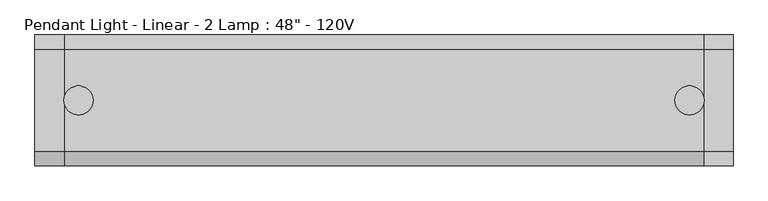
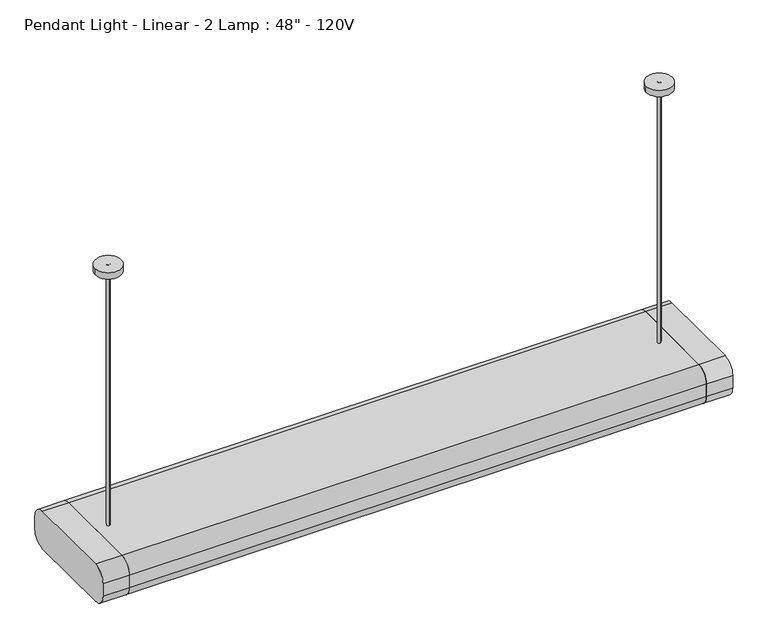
"""IFC4 building model written with IfcOpenShell, lengths in millimetres: light fixture geometry."""

import ifcopenshell
import ifcopenshell.guid

model = None  # the IFC model being written
_history = None  # IfcOwnerHistory: only IFC2X3 demands one
_inside = {}  # id of a spatial element -> (the spatial element, [elements in it])
_under = {}  # id of a project, library or spatial element -> (it, [spatial elements below it])
_declared = {}  # id of a project -> (the project, [libraries it declares])
_typed = {}  # id of a type object -> (the type object, [elements of that type])
_made_of = {}  # id of a material, layer set ... -> (it, [elements and type objects made of it])


def new_model(schema):
    """Start an empty IFC model of exactly this schema.

    Asked for "IFC4X3", IfcOpenShell would pick the latest addendum, in which some entities
    have other attributes; the version numbers below select the first issue.
    IFC2X3 requires an IfcOwnerHistory on every rooted entity: one is made here for all.
    """
    global model, _history
    if schema == "IFC4X3":
        model = ifcopenshell.file(schema_version=(4, 3, 0, 0))
    else:
        model = ifcopenshell.file(schema=schema)
    _inside.clear()
    _under.clear()
    _declared.clear()
    _typed.clear()
    _made_of.clear()
    _history = None
    if model.schema == "IFC2X3":
        org = make("IfcOrganization", Name="unknown")
        user = make(
            "IfcPersonAndOrganization",
            ThePerson=make("IfcPerson", FamilyName="unknown"),
            TheOrganization=org,
        )
        app = make(
            "IfcApplication",
            ApplicationDeveloper=org,
            Version="unknown",
            ApplicationFullName="unknown",
            ApplicationIdentifier="unknown",
        )
        _history = make(
            "IfcOwnerHistory",
            OwningUser=user,
            OwningApplication=app,
            ChangeAction="ADDED",
            CreationDate=0,
        )
    return model


def make(cls, **values):
    """One entity of the class cls with the attributes given. An attribute that is None is left unset."""
    return model.create_entity(
        cls, **{name: value for name, value in values.items() if value is not None}
    )


def rooted(cls, **values):
    """An entity with a GlobalId (a new one), such as an element, a storey or a relation."""
    return make(cls, GlobalId=ifcopenshell.guid.new(), OwnerHistory=_history, **values)


def si_unit(unit_type, name, prefix=None):
    """IfcSIUnit, for example si_unit("LENGTHUNIT", "METRE", prefix="MILLI")."""
    return make("IfcSIUnit", UnitType=unit_type, Prefix=prefix, Name=name)


def assignment(units):
    """IfcUnitAssignment: the units of a project."""
    return None if units is None else make("IfcUnitAssignment", Units=units)


def point(xyz):
    """IfcCartesianPoint."""
    return None if xyz is None else make("IfcCartesianPoint", Coordinates=xyz)


def direction(xyz):
    """IfcDirection."""
    return None if xyz is None else make("IfcDirection", DirectionRatios=xyz)


def frame(location, z_axis=None, x_axis=None):
    """IfcAxis2Placement3D, a coordinate frame: its origin and axes. An axis left out is left unset."""
    return make(
        "IfcAxis2Placement3D",
        Location=point(location),
        Axis=direction(z_axis),
        RefDirection=direction(x_axis),
    )


def frame_2d(location, x_axis=None):
    """IfcAxis2Placement2D, a coordinate frame in the plane: its origin and x axis."""
    return make(
        "IfcAxis2Placement2D", Location=point(location), RefDirection=direction(x_axis)
    )


def origin():
    """The frame at (0, 0, 0) with its axes left unset."""
    return frame((0.0, 0.0, 0.0))


def place(relative_to, where):
    """IfcLocalPlacement: puts the frame where relative to a parent placement (None: the world)."""
    return make(
        "IfcLocalPlacement", PlacementRelTo=relative_to, RelativePlacement=where
    )


def context(
    kind, dimensions, precision=None, world=None, true_north=None, identifier=None
):
    """IfcGeometricRepresentationContext, for example the 3D "Model" context."""
    return make(
        "IfcGeometricRepresentationContext",
        ContextIdentifier=identifier,
        ContextType=kind,
        CoordinateSpaceDimension=dimensions,
        Precision=precision,
        WorldCoordinateSystem=world,
        TrueNorth=true_north,
    )


def project(units=None, contexts=None):
    """IfcProject with its units and contexts."""
    return rooted(
        "IfcProject",
        Name="project",
        RepresentationContexts=contexts,
        UnitsInContext=assignment(units),
    )


def spatial(cls, under=None, at=None, **own):
    """A site, building, storey or space (cls), placed at a placement, below another one or the project."""
    s = rooted(cls, ObjectPlacement=at, **own)
    if under is not None:
        _under.setdefault(under.id(), (under, []))[1].append(s)
    return s


def polyline(points):
    """IfcPolyline through the points."""
    return make("IfcPolyline", Points=[point(p) for p in points])


def circle_curve(where, radius):
    """IfcCircle in the frame where."""
    return make("IfcCircle", Position=where, Radius=radius)


def trimmed(basis, trim1, trim2, sense, master):
    """IfcTrimmedCurve: the piece of a basis curve between two trims."""
    return make(
        "IfcTrimmedCurve",
        BasisCurve=basis,
        Trim1=trim1,
        Trim2=trim2,
        SenseAgreement=sense,
        MasterRepresentation=master,
    )


def segment(curve, same_sense, transition):
    """IfcCompositeCurveSegment."""
    return make(
        "IfcCompositeCurveSegment",
        Transition=transition,
        SameSense=same_sense,
        ParentCurve=curve,
    )


def composite_curve(segments, self_intersect=None):
    """IfcCompositeCurve: segments joined end to end."""
    return make("IfcCompositeCurve", Segments=segments, SelfIntersect=self_intersect)


def outline(outer, holes=None, kind="AREA"):
    """IfcArbitraryClosedProfileDef: a profile drawn as a closed curve; with holes, ...WithVoids."""
    if holes is None:
        return make("IfcArbitraryClosedProfileDef", ProfileType=kind, OuterCurve=outer)
    return make(
        "IfcArbitraryProfileDefWithVoids",
        ProfileType=kind,
        OuterCurve=outer,
        InnerCurves=holes,
    )


def extrude(swept, where, along, depth):
    """IfcExtrudedAreaSolid: the profile swept, set in the frame where, extruded along a direction by depth."""
    return make(
        "IfcExtrudedAreaSolid",
        SweptArea=swept,
        Position=where,
        ExtrudedDirection=direction(along),
        Depth=depth,
    )


def shape(context_of_items, identifier, shape_type, items):
    """IfcShapeRepresentation: the items that make up one representation, for example the "Body"."""
    return make(
        "IfcShapeRepresentation",
        ContextOfItems=context_of_items,
        RepresentationIdentifier=identifier,
        RepresentationType=shape_type,
        Items=items,
    )


def source(mapping_origin, context_of_items, identifier, shape_type, items):
    """IfcRepresentationMap: a shape defined once, which mapped items show again and again."""
    return make(
        "IfcRepresentationMap",
        MappingOrigin=mapping_origin,
        MappedRepresentation=shape(context_of_items, identifier, shape_type, items),
    )


def transform(
    local_origin,
    x_axis=None,
    y_axis=None,
    z_axis=None,
    scale=None,
    scale2=None,
    scale3=None,
    uniform=True,
):
    """IfcCartesianTransformationOperator3D, or its non-uniform kind. x_axis, y_axis, z_axis: its Axis1, 2, 3."""
    if uniform:
        return make(
            "IfcCartesianTransformationOperator3D",
            Axis1=direction(x_axis),
            Axis2=direction(y_axis),
            LocalOrigin=point(local_origin),
            Scale=scale,
            Axis3=direction(z_axis),
        )
    return make(
        "IfcCartesianTransformationOperator3DnonUniform",
        Axis1=direction(x_axis),
        Axis2=direction(y_axis),
        LocalOrigin=point(local_origin),
        Scale=scale,
        Axis3=direction(z_axis),
        Scale2=scale2,
        Scale3=scale3,
    )


def mapped(mapping_source, mapping_target):
    """IfcMappedItem: shows the shape of a source again, moved by a transform."""
    return make(
        "IfcMappedItem", MappingSource=mapping_source, MappingTarget=mapping_target
    )


def made_of(thing, what):
    """Note that an element or type object is made of a material, layer set ...; save() writes the relation."""
    if what is not None:
        _made_of.setdefault(what.id(), (what, []))[1].append(thing)
    return thing


def element(
    cls,
    number,
    at=None,
    inside=None,
    cuts=None,
    type_object=None,
    material=None,
    context=None,
    identifier="Body",
    shape_type=None,
    held_by="IfcProductDefinitionShape",
    body=None,
    shapes=None,
    **own,
):
    """One element of the class cls, such as IfcWall. Its Tag is "e" and its number.

    at: its placement. inside: the storey or other place that contains it. cuts: it is an
    opening in that element (IfcRelVoidsElement). A single representation is given by context,
    identifier, shape_type and body (its items); several are given by shapes. held_by: the class
    of the entity that holds the representations. save() writes the other relations.
    """
    e = rooted(cls, Tag="e%d" % number, ObjectPlacement=at, **own)
    if body is not None:
        shapes = [shape(context, identifier, shape_type, body)]
    if shapes is not None:
        e.Representation = make(held_by, Representations=shapes)
    if inside is not None:
        _inside.setdefault(inside.id(), (inside, []))[1].append(e)
    if cuts is not None:
        rooted(
            "IfcRelVoidsElement", RelatingBuildingElement=cuts, RelatedOpeningElement=e
        )
    if type_object is not None:
        _typed.setdefault(type_object.id(), (type_object, []))[1].append(e)
    return made_of(e, material)


def aggregate(whole, parts):
    """IfcRelAggregates: a whole, such as a stair, and the parts it consists of."""
    return rooted("IfcRelAggregates", RelatingObject=whole, RelatedObjects=parts)


def save(model, path):
    """Write the relations noted so far, then the file.

    IfcRelAggregates (storeys below a building ...), IfcRelContainedInSpatialStructure (elements
    in a storey), IfcRelDefinesByType, IfcRelAssociatesMaterial and IfcRelDeclares: one each for
    every whole, place, type object, material and project.
    """
    for whole, parts in _under.values():
        aggregate(whole, parts)
    for where, things in _inside.values():
        rooted(
            "IfcRelContainedInSpatialStructure",
            RelatedElements=things,
            RelatingStructure=where,
        )
    for kind, things in _typed.values():
        rooted("IfcRelDefinesByType", RelatedObjects=things, RelatingType=kind)
    for what, things in _made_of.values():
        rooted("IfcRelAssociatesMaterial", RelatedObjects=things, RelatingMaterial=what)
    for by, libraries in _declared.values():
        rooted("IfcRelDeclares", RelatingContext=by, RelatedDefinitions=libraries)
    model.write(path)


def light_fixture_44c92628(model_context):
    return source(origin(), model_context, "Body", "SweptSolid", [
        extrude(outline(composite_curve([segment(trimmed(circle_curve(frame_2d((88.9, 1879.6)), 25.4), [point((88.9, 1905.0))], [point((114.3, 1879.6))], False, "CARTESIAN"), True, "CONTINUOUS"), segment(polyline([(114.3, 1879.6), (114.3, 1854.2)]), True, "CONTINUOUS"), segment(trimmed(circle_curve(frame_2d((88.9, 1854.2)), 25.4), [point((114.3, 1854.2))], [point((88.9, 1828.8))], False, "CARTESIAN"), True, "CONTINUOUS"), segment(polyline([(88.9, 1828.8), (-88.9, 1828.8)]), True, "CONTINUOUS"), segment(trimmed(circle_curve(frame_2d((-88.9, 1854.2)), 25.4), [point((-88.9, 1828.8))], [point((-114.3, 1854.2))], False, "CARTESIAN"), True, "CONTINUOUS"), segment(polyline([(-114.3, 1854.2), (-114.3, 1879.6)]), True, "CONTINUOUS"), segment(trimmed(circle_curve(frame_2d((-88.9, 1879.6)), 25.4), [point((-114.3, 1879.6))], [point((-88.9, 1905.0))], False, "CARTESIAN"), True, "CONTINUOUS"), segment(polyline([(-88.9, 1905.0), (88.9, 1905.0)]), True, "CONTINUOUS")], self_intersect=False)), frame((558.8, 0.0, 0.0), z_axis=(1.0, 0.0, 0.0), x_axis=(0.0, 1.0, 0.0)), (0.0, 0.0, 1.0), 50.8),
        extrude(outline(composite_curve([segment(polyline([(-88.9, 1905.0), (88.9, 1905.0)]), True, "CONTINUOUS"), segment(trimmed(circle_curve(frame_2d((88.9, 1879.6)), 25.4), [point((88.9, 1905.0))], [point((114.3, 1879.6))], False, "CARTESIAN"), True, "CONTINUOUS"), segment(polyline([(114.3, 1879.6), (114.3, 1854.2)]), True, "CONTINUOUS"), segment(trimmed(circle_curve(frame_2d((88.9, 1854.2)), 25.4), [point((114.3, 1854.2))], [point((88.9, 1828.8))], False, "CARTESIAN"), True, "CONTINUOUS"), segment(polyline([(88.9, 1828.8), (-88.9, 1828.8)]), True, "CONTINUOUS"), segment(trimmed(circle_curve(frame_2d((-88.9, 1854.2)), 25.4), [point((-88.9, 1828.8))], [point((-114.3, 1854.2))], False, "CARTESIAN"), True, "CONTINUOUS"), segment(polyline([(-114.3, 1854.2), (-114.3, 1879.6)]), True, "CONTINUOUS"), segment(trimmed(circle_curve(frame_2d((-88.9, 1879.6)), 25.4), [point((-114.3, 1879.6))], [point((-88.9, 1905.0))], False, "CARTESIAN"), True, "CONTINUOUS")], self_intersect=False)), frame((-609.6, 0.0, 0.0), z_axis=(1.0, 0.0, 0.0), x_axis=(0.0, 1.0, 0.0)), (0.0, 0.0, 1.0), 50.8),
        extrude(outline(polyline([(558.8, 63.5), (558.8, -63.5), (-558.8, -63.5), (-558.8, 63.5), (558.8, 63.5)])), frame((0.0, 0.0, 1828.8), z_axis=(0.0, 0.0, 1.0), x_axis=(1.0, 0.0, 0.0)), (0.0, 0.0, 1.0), 12.7),
        extrude(outline(composite_curve([segment(trimmed(circle_curve(frame_2d((-533.4883785, 0.0)), 25.4), [point((-558.8883785, 0.0))], [point((-508.0883785, 0.0))], False, "CARTESIAN"), True, "CONTINUOUS"), segment(trimmed(circle_curve(frame_2d((-533.4883785, 0.0)), 25.4), [point((-508.0883785, 0.0))], [point((-558.8883785, 0.0))], False, "CARTESIAN"), True, "CONTINUOUS")], self_intersect=False)), frame((0.0, 0.0, 2425.7), z_axis=(0.0, 0.0, 1.0), x_axis=(1.0, 0.0, 0.0)), (0.0, 0.0, 1.0), 12.7),
        extrude(outline(composite_curve([segment(trimmed(circle_curve(frame_2d((533.4, 0.0)), 25.4), [point((508.0, 0.0))], [point((558.8, 0.0))], False, "CARTESIAN"), True, "CONTINUOUS"), segment(trimmed(circle_curve(frame_2d((533.4, 0.0)), 25.4), [point((558.8, 0.0))], [point((508.0, 0.0))], False, "CARTESIAN"), True, "CONTINUOUS")], self_intersect=False)), frame((0.0, 0.0, 2425.7), z_axis=(0.0, 0.0, 1.0), x_axis=(1.0, 0.0, 0.0)), (0.0, 0.0, 1.0), 12.7),
        extrude(outline(composite_curve([segment(trimmed(circle_curve(frame_2d((-533.4, 0.0)), 3.175), [point((-533.4, 3.175))], [point((-533.4, -3.175))], False, "CARTESIAN"), True, "CONTINUOUS"), segment(trimmed(circle_curve(frame_2d((-533.4, 0.0)), 3.175), [point((-533.4, -3.175))], [point((-533.4, 3.175))], False, "CARTESIAN"), True, "CONTINUOUS")], self_intersect=False)), frame((0.0, 0.0, 1905.0), z_axis=(0.0, 0.0, 1.0), x_axis=(1.0, 0.0, 0.0)), (0.0, 0.0, 1.0), 533.4),
        extrude(outline(composite_curve([segment(trimmed(circle_curve(frame_2d((533.4, 0.0)), 3.175), [point((533.4, 3.175))], [point((533.4, -3.175))], False, "CARTESIAN"), True, "CONTINUOUS"), segment(trimmed(circle_curve(frame_2d((533.4, 0.0)), 3.175), [point((533.4, -3.175))], [point((533.4, 3.175))], False, "CARTESIAN"), True, "CONTINUOUS")], self_intersect=False)), frame((0.0, 0.0, 1905.0), z_axis=(0.0, 0.0, 1.0), x_axis=(1.0, 0.0, 0.0)), (0.0, 0.0, 1.0), 533.4),
        extrude(outline(composite_curve([segment(polyline([(-88.9, 1905.0), (88.9, 1905.0)]), True, "CONTINUOUS"), segment(trimmed(circle_curve(frame_2d((88.9, 1879.6)), 25.4), [point((88.9, 1905.0))], [point((114.3, 1879.6))], False, "CARTESIAN"), True, "CONTINUOUS"), segment(polyline([(114.3, 1879.6), (114.3, 1854.2)]), True, "CONTINUOUS"), segment(trimmed(circle_curve(frame_2d((88.9, 1854.2)), 25.4), [point((114.3, 1854.2))], [point((88.9, 1828.8))], False, "CARTESIAN"), True, "CONTINUOUS"), segment(polyline([(88.9, 1828.8), (63.5, 1828.8), (63.5, 1854.2), (-63.5, 1854.2), (-63.5, 1828.8), (-88.9, 1828.8)]), True, "CONTINUOUS"), segment(trimmed(circle_curve(frame_2d((-88.9, 1854.2)), 25.4), [point((-88.9, 1828.8))], [point((-114.3, 1854.2))], False, "CARTESIAN"), True, "CONTINUOUS"), segment(polyline([(-114.3, 1854.2), (-114.3, 1879.6)]), True, "CONTINUOUS"), segment(trimmed(circle_curve(frame_2d((-88.9, 1879.6)), 25.4), [point((-114.3, 1879.6))], [point((-88.9, 1905.0))], False, "CARTESIAN"), True, "CONTINUOUS")], self_intersect=False)), frame((-558.8, 0.0, 0.0), z_axis=(1.0, 0.0, 0.0), x_axis=(0.0, 1.0, 0.0)), (0.0, 0.0, 1.0), 1117.6),
    ])


if __name__ == "__main__":
    model = new_model("IFC4")
    model_context = context("Model", 3, world=origin())
    ifc_project = project(units=[si_unit("LENGTHUNIT", "METRE", prefix="MILLI")], contexts=[model_context])
    site = spatial("IfcSite", under=ifc_project)
    building = spatial("IfcBuilding", under=site)
    placement = place(None, origin())
    light_fixture_shape = light_fixture_44c92628(model_context)
    element("IfcLightFixture", 1, ObjectType="Pendant Light - Linear - 2 Lamp : 48\" - 120V", at=placement, inside=building, context=model_context, shape_type="MappedRepresentation", body=[
        mapped(light_fixture_shape, transform((0.0, 0.0, 0.0), x_axis=(1.0, 0.0, 0.0), y_axis=(0.0, 1.0, 0.0), z_axis=(0.0, 0.0, 1.0))),
    ])
    save(model, "model.ifc")
